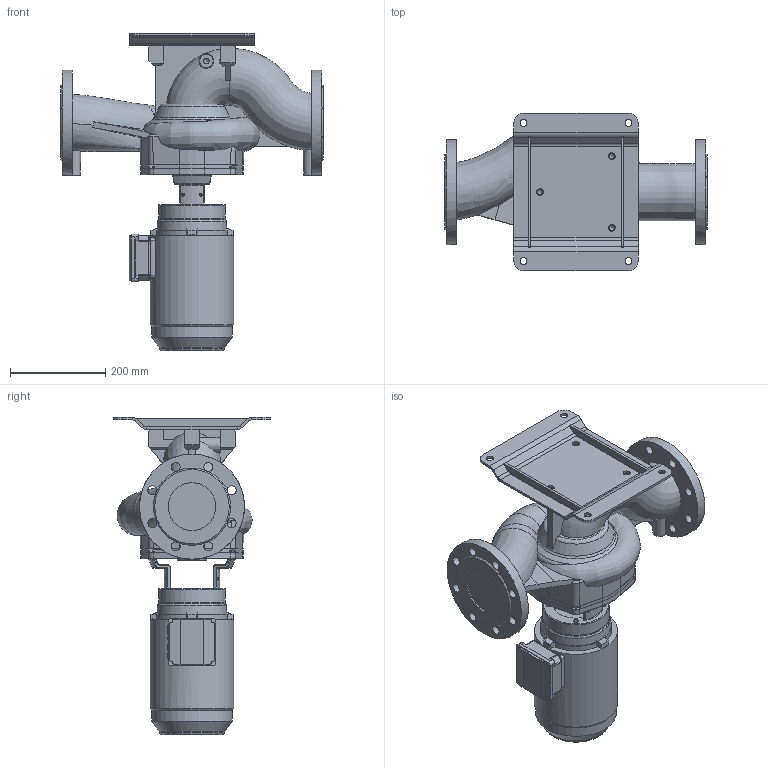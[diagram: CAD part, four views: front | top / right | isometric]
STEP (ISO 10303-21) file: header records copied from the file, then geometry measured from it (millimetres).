
FILE_DESCRIPTION (( 'STEP AP203' ), '1' );
FILE_NAME ('KI100-145_4_1,1kW.STEP', '2024-07-29T10:47:59', ( '' ), ( '' ), 'SwSTEP 2.0', 'SolidWorks 2023', '' );
FILE_SCHEMA (( 'CONFIG_CONTROL_DESIGN' ));
Length unit declared in the file: millimetre
Products named in the file (11): 230500; 230034; 220542; 230033; 230408; HMC3-90S-4P-B14_solid; 230031; 220543; KI100-145_4_1,1kW; 230501; 230409
Assembly tree (11 placements, depth 3):
  KI100-145_4_1,1kW
    HMC3-90S-4P-B14_solid
    230409
      230408
    230501
      230500
    220543
      220542
    230034
      230031
      230033  x2
Bounding box: 550 x 330.18 x 664.44 mm (x, y, z)
Volume: 20982626.8 mm3; surface area: 1211398.3 mm2
Topology: 7 solids, 7 shells, 860 faces, 2290 edges, 1422 vertices
Faces by surface type: plane 313, cylinder 278, bspline 99, cone 77, torus 71, sphere 22
Full cylindrical faces by diameter (mm): 5 x8, 6 x3, 6.8 x4, 7 x8, 10 x4, 10.2 x7, 11.8 x4, 14 x4, 14.5 x7, 19 x16, 95 x1, 100 x2, 136 x1, 140 x3, 164 x1, 168.6 x1, 174.6 x1, 189 x1, 220 x2
Entity records: 88791 total; most frequent: CARTESIAN_POINT 67959, ORIENTED_EDGE 4124, DIRECTION 3969, EDGE_CURVE 2062, AXIS2_PLACEMENT_3D 1550, VERTEX_POINT 1344, EDGE_LOOP 1056, FACE_OUTER_BOUND 932
